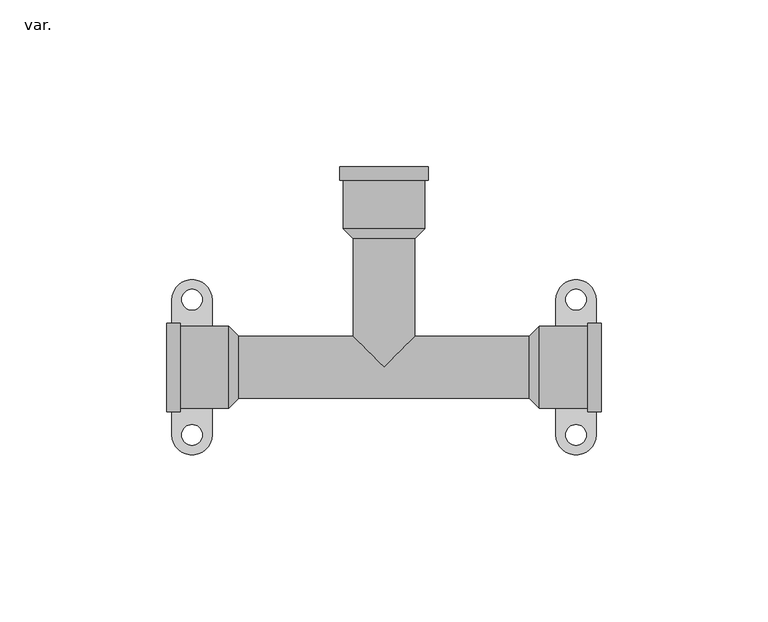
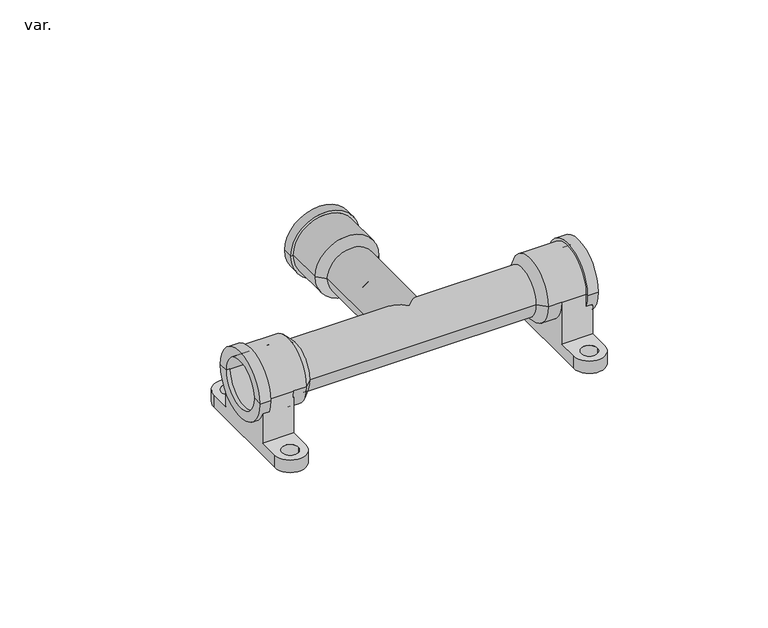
"""IFC4 building model written with IfcOpenShell, lengths in millimetres: pipe fitting geometry, AmancoWavin_ConexõesdeTubos_PEXTêMisturadorcomFixação : var.."""

from ifc_helpers import new_model, si_unit, frame, origin, place, context, project, spatial, polyline, circle_curve, ellipse_curve, source, transform, mapped, element, save
from ifc_brep_helpers import plane_surface, cylinder_surface, revolved_surface, advanced_brep


def var_aad8315b(model_context):
    return source(origin(), model_context, "Body", "AdvancedBrep", [
        advanced_brep(
        [(-51.0, 0.0, 0.0), (-51.0, 9.5, 0.0), (-51.0, -9.5, 0.0), (51.0, -9.5, 0.0), (51.0, 9.5, 0.0), (51.0, 0.0, 0.0), (51.5, -9.5, 0.0), (51.5, 9.5, 0.0), (65.0, -9.5, 0.0), (65.0, 9.5, 0.0), (63.5, 9.5, 0.0), (63.5, -9.5, 0.0), (65.0, -13.25, 0.0), (65.0, 13.25, 0.0), (61.0, -13.25, 0.0), (61.0, -12.25, -5.0497525), (63.5, -12.25, -5.0497525), (63.5, 12.25, -5.0497525), (61.0, 12.25, -5.0497525), (61.0, 13.25, 0.0), (61.0, 12.25, 0.0), (61.0, -12.25, 0.0), (46.5, -12.25, 0.0), (46.5, 12.25, 0.0), (51.5, 12.25, 0.0), (51.5, -12.25, 0.0), (43.5, -9.25, 0.0), (43.5, 9.25, 0.0), (-43.5, -9.25, 0.0), (-43.5, 9.25, 0.0), (-9.25, 9.25, 0.0), (0.0, 0.0, -9.25), (9.25, 9.25, 0.0), (0.0, 0.0, 9.25), (-46.5, -12.25, 0.0), (-46.5, 12.25, 0.0), (-51.5, -12.25, 0.0), (-51.5, 12.25, 0.0), (-61.0, 12.25, 0.0), (-61.0, -12.25, 0.0), (-61.0, 13.25, 0.0), (-61.0, 12.25, -5.0497525), (-61.0, -13.25, 0.0), (-61.0, -12.25, -5.0497525), (-65.0, -13.25, 0.0), (-65.0, 13.25, 0.0), (-63.5, 12.25, -5.0497525), (-63.5, -12.25, -5.0497525), (-65.0, -9.5, 0.0), (-65.0, 9.5, 0.0), (-51.5, 9.5, 0.0), (-51.5, -9.5, 0.0), (-63.5, -9.5, 0.0), (-63.5, 9.5, 0.0), (-9.25, 38.5, 0.0), (9.25, 38.5, 0.0), (-12.25, 41.5, 0.0), (12.25, 41.5, 0.0), (-12.25, 56.0, 0.0), (12.25, 56.0, 0.0), (-13.25, 56.0, 0.0), (13.25, 56.0, 0.0), (-13.25, 60.0, 0.0), (13.25, 60.0, 0.0), (-9.5, 60.0, 0.0), (9.5, 60.0, 0.0), (-9.5, 46.0, 0.0), (9.5, 46.0, 0.0), (0.0, 46.0, 0.0), (-63.5, -20.25, -17.0), (-51.5, -20.25, -17.0), (-51.5, -12.25, -17.0), (-63.5, -12.25, -17.0), (-60.6, -20.25, -17.0), (-54.4, -20.25, -17.0), (-51.5, 20.25, -17.0), (-63.5, 20.25, -17.0), (-63.5, 12.25, -17.0), (-51.5, 12.25, -17.0), (-60.6, 20.25, -17.0), (-54.4, 20.25, -17.0), (51.5, -20.25, -17.0), (63.5, -20.25, -17.0), (63.5, -12.25, -17.0), (51.5, -12.25, -17.0), (54.4, -20.25, -17.0), (60.6, -20.25, -17.0), (63.5, 20.25, -17.0), (51.5, 20.25, -17.0), (51.5, 12.25, -17.0), (63.5, 12.25, -17.0), (54.4, 20.25, -17.0), (60.6, 20.25, -17.0), (-63.5, -20.25, -22.0), (-63.5, 20.25, -22.0), (-51.5, 20.25, -22.0), (-51.5, -20.25, -22.0), (-60.6, 20.25, -22.0), (-54.4, 20.25, -22.0), (-60.6, -20.25, -22.0), (-54.4, -20.25, -22.0), (51.5, -20.25, -22.0), (51.5, 20.25, -22.0), (63.5, 20.25, -22.0), (63.5, -20.25, -22.0), (54.4, 20.25, -22.0), (60.6, 20.25, -22.0), (54.4, -20.25, -22.0), (60.6, -20.25, -22.0)],
        [
            (0, 1),
            (1, 2, circle_curve(frame((-51.0, 0.0, 0.0), z_axis=(-1.0, 0.0, 0.0), x_axis=(0.0, 1.0, 0.0)), 9.5)),
            (2, 0),
            (2, 1, circle_curve(frame((-51.0, 0.0, 0.0), z_axis=(-1.0, 0.0, 0.0), x_axis=(0.0, 1.0, 0.0)), 9.5)),
            (3, 4, circle_curve(frame((51.0, 0.0, 0.0), z_axis=(1.0, 0.0, 0.0), x_axis=(0.0, 1.0, 0.0)), 9.5)),
            (4, 5),
            (5, 3),
            (4, 3, circle_curve(frame((51.0, 0.0, 0.0), z_axis=(1.0, 0.0, 0.0), x_axis=(0.0, 1.0, 0.0)), 9.5)),
            (3, 6),
            (6, 7, circle_curve(frame((51.5, 0.0, 0.0), z_axis=(1.0, 0.0, 0.0), x_axis=(0.0, 1.0, 0.0)), 9.5)),
            (7, 4),
            (8, 9, circle_curve(frame((65.0, 0.0, 0.0), z_axis=(1.0, 0.0, 0.0), x_axis=(0.0, 1.0, 0.0)), 9.5)),
            (9, 10),
            (10, 11, circle_curve(frame((63.5, 0.0, 0.0), z_axis=(-1.0, 0.0, 0.0), x_axis=(0.0, 1.0, 0.0)), 9.5)),
            (11, 8),
            (7, 10),
            (9, 8, circle_curve(frame((65.0, 0.0, 0.0), z_axis=(1.0, 0.0, 0.0), x_axis=(0.0, 1.0, 0.0)), 9.5)),
            (11, 6),
            (8, 12),
            (12, 13, circle_curve(frame((65.0, 0.0, 0.0), z_axis=(1.0, 0.0, 0.0), x_axis=(0.0, 1.0, 0.0)), 13.25)),
            (13, 9),
            (13, 12, circle_curve(frame((65.0, 0.0, 0.0), z_axis=(1.0, 0.0, 0.0), x_axis=(0.0, 1.0, 0.0)), 13.25)),
            (12, 14),
            (14, 15, circle_curve(frame((61.0, 0.0, 0.0), z_axis=(1.0, 0.0, 0.0), x_axis=(0.0, 1.0, 0.0)), 13.25)),
            (15, 16),
            (16, 17, circle_curve(frame((63.5, 0.0, 0.0), z_axis=(1.0, 0.0, 0.0), x_axis=(0.0, 1.0, 0.0)), 13.25)),
            (17, 18),
            (18, 19, circle_curve(frame((61.0, 0.0, 0.0), z_axis=(1.0, 0.0, 0.0), x_axis=(0.0, 1.0, 0.0)), 13.25)),
            (19, 13),
            (19, 14, circle_curve(frame((61.0, 0.0, 0.0), z_axis=(1.0, 0.0, 0.0), x_axis=(0.0, 1.0, 0.0)), 13.25)),
            (20, 19),
            (18, 20),
            (14, 21),
            (21, 15),
            (20, 21, circle_curve(frame((61.0, 0.0, 0.0), z_axis=(1.0, 0.0, 0.0), x_axis=(0.0, 1.0, 0.0)), 12.25)),
            (22, 23, circle_curve(frame((46.5, 0.0, 0.0), z_axis=(1.0, 0.0, 0.0), x_axis=(0.0, 1.0, 0.0)), 12.25)),
            (23, 24),
            (24, 25, circle_curve(frame((51.5, 0.0, 0.0), z_axis=(-1.0, 0.0, 0.0), x_axis=(0.0, 1.0, 0.0)), 12.25)),
            (25, 22),
            (20, 24),
            (23, 22, circle_curve(frame((46.5, 0.0, 0.0), z_axis=(1.0, 0.0, 0.0), x_axis=(0.0, 1.0, 0.0)), 12.25)),
            (25, 21),
            (22, 26),
            (26, 27, circle_curve(frame((43.5, 0.0, 0.0), z_axis=(1.0, 0.0, 0.0), x_axis=(0.0, 1.0, 0.0)), 9.25)),
            (27, 23),
            (27, 26, circle_curve(frame((43.5, 0.0, 0.0), z_axis=(1.0, 0.0, 0.0), x_axis=(0.0, 1.0, 0.0)), 9.25)),
            (26, 28),
            (28, 29, circle_curve(frame((-43.5, 0.0, 0.0), z_axis=(1.0, 0.0, 0.0), x_axis=(0.0, 1.0, 0.0)), 9.25)),
            (29, 30),
            (30, 31, ellipse_curve(frame((0.0, 0.0, 0.0), z_axis=(-0.7071067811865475, -0.7071067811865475, 0.0), x_axis=(-0.7071067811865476, 0.7071067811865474, 0.0)), 13.0814755, 9.25)),
            (31, 32, ellipse_curve(frame((0.0, 0.0, 0.0), z_axis=(0.7071067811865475, -0.7071067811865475, 0.0), x_axis=(-0.7071067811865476, -0.7071067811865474, 0.0)), 13.0814755, 9.25)),
            (32, 27),
            (32, 33, ellipse_curve(frame((0.0, 0.0, 0.0), z_axis=(0.7071067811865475, -0.7071067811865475, 0.0), x_axis=(-0.7071067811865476, -0.7071067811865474, 0.0)), 13.0814755, 9.25)),
            (33, 30, ellipse_curve(frame((0.0, 0.0, 0.0), z_axis=(-0.7071067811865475, -0.7071067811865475, 0.0), x_axis=(-0.7071067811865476, 0.7071067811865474, 0.0)), 13.0814755, 9.25)),
            (29, 28, circle_curve(frame((-43.5, 0.0, 0.0), z_axis=(1.0, 0.0, 0.0), x_axis=(0.0, 1.0, 0.0)), 9.25)),
            (28, 34),
            (34, 35, circle_curve(frame((-46.5, 0.0, 0.0), z_axis=(1.0, 0.0, 0.0), x_axis=(0.0, 1.0, 0.0)), 12.25)),
            (35, 29),
            (35, 34, circle_curve(frame((-46.5, 0.0, 0.0), z_axis=(1.0, 0.0, 0.0), x_axis=(0.0, 1.0, 0.0)), 12.25)),
            (34, 36),
            (36, 37, circle_curve(frame((-51.5, 0.0, 0.0), z_axis=(1.0, 0.0, 0.0), x_axis=(0.0, 1.0, 0.0)), 12.25)),
            (37, 35),
            (37, 38),
            (38, 39, circle_curve(frame((-61.0, 0.0, 0.0), z_axis=(1.0, 0.0, 0.0), x_axis=(0.0, 1.0, 0.0)), 12.25)),
            (39, 36),
            (40, 38),
            (38, 41),
            (41, 40, circle_curve(frame((-61.0, 0.0, 0.0), z_axis=(1.0, 0.0, 0.0), x_axis=(0.0, 1.0, 0.0)), 13.25)),
            (39, 42),
            (42, 43, circle_curve(frame((-61.0, 0.0, 0.0), z_axis=(1.0, 0.0, 0.0), x_axis=(0.0, 1.0, 0.0)), 13.25)),
            (43, 39),
            (40, 42, circle_curve(frame((-61.0, 0.0, 0.0), z_axis=(1.0, 0.0, 0.0), x_axis=(0.0, 1.0, 0.0)), 13.25)),
            (44, 45, circle_curve(frame((-65.0, 0.0, 0.0), z_axis=(1.0, 0.0, 0.0), x_axis=(0.0, 1.0, 0.0)), 13.25)),
            (45, 40),
            (41, 46),
            (46, 47, circle_curve(frame((-63.5, 0.0, 0.0), z_axis=(-1.0, 0.0, 0.0), x_axis=(0.0, 1.0, 0.0)), 13.25)),
            (47, 43),
            (42, 44),
            (45, 44, circle_curve(frame((-65.0, 0.0, 0.0), z_axis=(1.0, 0.0, 0.0), x_axis=(0.0, 1.0, 0.0)), 13.25)),
            (44, 48),
            (48, 49, circle_curve(frame((-65.0, 0.0, 0.0), z_axis=(1.0, 0.0, 0.0), x_axis=(0.0, 1.0, 0.0)), 9.5)),
            (49, 45),
            (49, 48, circle_curve(frame((-65.0, 0.0, 0.0), z_axis=(1.0, 0.0, 0.0), x_axis=(0.0, 1.0, 0.0)), 9.5)),
            (1, 50),
            (50, 51, circle_curve(frame((-51.5, 0.0, 0.0), z_axis=(-1.0, 0.0, 0.0), x_axis=(0.0, 1.0, 0.0)), 9.5)),
            (51, 2),
            (48, 52),
            (52, 53, circle_curve(frame((-63.5, 0.0, 0.0), z_axis=(1.0, 0.0, 0.0), x_axis=(0.0, 1.0, 0.0)), 9.5)),
            (53, 49),
            (51, 52),
            (53, 50),
            (54, 55, circle_curve(frame((0.0, 38.5, 0.0), z_axis=(0.0, -1.0, 0.0), x_axis=(1.0, 0.0, 0.0)), 9.25)),
            (55, 32),
            (30, 54),
            (55, 54, circle_curve(frame((0.0, 38.5, 0.0), z_axis=(0.0, -1.0, 0.0), x_axis=(1.0, 0.0, 0.0)), 9.25)),
            (54, 56),
            (56, 57, circle_curve(frame((0.0, 41.5, 0.0), z_axis=(0.0, -1.0, 0.0), x_axis=(1.0, 0.0, 0.0)), 12.25)),
            (57, 55),
            (57, 56, circle_curve(frame((0.0, 41.5, 0.0), z_axis=(0.0, -1.0, 0.0), x_axis=(1.0, 0.0, 0.0)), 12.25)),
            (56, 58),
            (58, 59, circle_curve(frame((0.0, 56.0, 0.0), z_axis=(0.0, -1.0, 0.0), x_axis=(1.0, 0.0, 0.0)), 12.25)),
            (59, 57),
            (59, 58, circle_curve(frame((0.0, 56.0, 0.0), z_axis=(0.0, -1.0, 0.0), x_axis=(1.0, 0.0, 0.0)), 12.25)),
            (58, 60),
            (60, 61, circle_curve(frame((0.0, 56.0, 0.0), z_axis=(0.0, -1.0, 0.0), x_axis=(1.0, 0.0, 0.0)), 13.25)),
            (61, 59),
            (61, 60, circle_curve(frame((0.0, 56.0, 0.0), z_axis=(0.0, -1.0, 0.0), x_axis=(1.0, 0.0, 0.0)), 13.25)),
            (60, 62),
            (62, 63, circle_curve(frame((0.0, 60.0, 0.0), z_axis=(0.0, -1.0, 0.0), x_axis=(1.0, 0.0, 0.0)), 13.25)),
            (63, 61),
            (63, 62, circle_curve(frame((0.0, 60.0, 0.0), z_axis=(0.0, -1.0, 0.0), x_axis=(1.0, 0.0, 0.0)), 13.25)),
            (62, 64),
            (64, 65, circle_curve(frame((0.0, 60.0, 0.0), z_axis=(0.0, -1.0, 0.0), x_axis=(1.0, 0.0, 0.0)), 9.5)),
            (65, 63),
            (65, 64, circle_curve(frame((0.0, 60.0, 0.0), z_axis=(0.0, -1.0, 0.0), x_axis=(1.0, 0.0, 0.0)), 9.5)),
            (64, 66),
            (66, 67, circle_curve(frame((0.0, 46.0, 0.0), z_axis=(0.0, -1.0, 0.0), x_axis=(1.0, 0.0, 0.0)), 9.5)),
            (67, 65),
            (67, 66, circle_curve(frame((0.0, 46.0, 0.0), z_axis=(0.0, -1.0, 0.0), x_axis=(1.0, 0.0, 0.0)), 9.5)),
            (66, 68),
            (68, 67),
            (69, 70, circle_curve(frame((-57.5, -20.25, -17.0), z_axis=(0.0, 0.0, 1.0), x_axis=(1.0, 0.0, 0.0)), 6.0)),
            (70, 71),
            (71, 72),
            (72, 69),
            (73, 74, circle_curve(frame((-57.5, -20.25, -17.0), z_axis=(0.0, 0.0, -1.0), x_axis=(1.0, 0.0, 0.0)), 3.1)),
            (74, 73, circle_curve(frame((-57.5, -20.25, -17.0), z_axis=(0.0, 0.0, -1.0), x_axis=(1.0, 0.0, 0.0)), 3.1)),
            (75, 76, circle_curve(frame((-57.5, 20.25, -17.0), z_axis=(0.0, 0.0, 1.0), x_axis=(1.0, 0.0, 0.0)), 6.0)),
            (76, 77),
            (77, 78),
            (78, 75),
            (79, 80, circle_curve(frame((-57.5, 20.25, -17.0), z_axis=(0.0, 0.0, -1.0), x_axis=(1.0, 0.0, 0.0)), 3.1)),
            (80, 79, circle_curve(frame((-57.5, 20.25, -17.0), z_axis=(0.0, 0.0, -1.0), x_axis=(1.0, 0.0, 0.0)), 3.1)),
            (81, 82, circle_curve(frame((57.5, -20.25, -17.0), z_axis=(0.0, 0.0, 1.0), x_axis=(1.0, 0.0, 0.0)), 6.0)),
            (82, 83),
            (83, 84),
            (84, 81),
            (85, 86, circle_curve(frame((57.5, -20.25, -17.0), z_axis=(0.0, 0.0, -1.0), x_axis=(1.0, 0.0, 0.0)), 3.1)),
            (86, 85, circle_curve(frame((57.5, -20.25, -17.0), z_axis=(0.0, 0.0, -1.0), x_axis=(1.0, 0.0, 0.0)), 3.1)),
            (87, 88, circle_curve(frame((57.5, 20.25, -17.0), z_axis=(0.0, 0.0, 1.0), x_axis=(1.0, 0.0, 0.0)), 6.0)),
            (88, 89),
            (89, 90),
            (90, 87),
            (91, 92, circle_curve(frame((57.5, 20.25, -17.0), z_axis=(0.0, 0.0, -1.0), x_axis=(1.0, 0.0, 0.0)), 3.1)),
            (92, 91, circle_curve(frame((57.5, 20.25, -17.0), z_axis=(0.0, 0.0, -1.0), x_axis=(1.0, 0.0, 0.0)), 3.1)),
            (93, 94),
            (94, 95, circle_curve(frame((-57.5, 20.25, -22.0), z_axis=(0.0, 0.0, -1.0), x_axis=(1.0, 0.0, 0.0)), 6.0)),
            (95, 96),
            (96, 93, circle_curve(frame((-57.5, -20.25, -22.0), z_axis=(0.0, 0.0, -1.0), x_axis=(1.0, 0.0, 0.0)), 6.0)),
            (97, 98, circle_curve(frame((-57.5, 20.25, -22.0), z_axis=(0.0, 0.0, 1.0), x_axis=(1.0, 0.0, 0.0)), 3.1)),
            (98, 97, circle_curve(frame((-57.5, 20.25, -22.0), z_axis=(0.0, 0.0, 1.0), x_axis=(1.0, 0.0, 0.0)), 3.1)),
            (99, 100, circle_curve(frame((-57.5, -20.25, -22.0), z_axis=(0.0, 0.0, 1.0), x_axis=(1.0, 0.0, 0.0)), 3.1)),
            (100, 99, circle_curve(frame((-57.5, -20.25, -22.0), z_axis=(0.0, 0.0, 1.0), x_axis=(1.0, 0.0, 0.0)), 3.1)),
            (101, 102),
            (102, 103, circle_curve(frame((57.5, 20.25, -22.0), z_axis=(0.0, 0.0, -1.0), x_axis=(1.0, 0.0, 0.0)), 6.0)),
            (103, 104),
            (104, 101, circle_curve(frame((57.5, -20.25, -22.0), z_axis=(0.0, 0.0, -1.0), x_axis=(1.0, 0.0, 0.0)), 6.0)),
            (105, 106, circle_curve(frame((57.5, 20.25, -22.0), z_axis=(0.0, 0.0, 1.0), x_axis=(1.0, 0.0, 0.0)), 3.1)),
            (106, 105, circle_curve(frame((57.5, 20.25, -22.0), z_axis=(0.0, 0.0, 1.0), x_axis=(1.0, 0.0, 0.0)), 3.1)),
            (107, 108, circle_curve(frame((57.5, -20.25, -22.0), z_axis=(0.0, 0.0, 1.0), x_axis=(1.0, 0.0, 0.0)), 3.1)),
            (108, 107, circle_curve(frame((57.5, -20.25, -22.0), z_axis=(0.0, 0.0, 1.0), x_axis=(1.0, 0.0, 0.0)), 3.1)),
            (69, 93),
            (96, 70),
            (75, 95),
            (94, 76),
            (81, 101),
            (104, 82),
            (87, 103),
            (102, 88),
            (79, 97),
            (98, 80),
            (73, 99),
            (100, 74),
            (91, 105),
            (106, 92),
            (85, 107),
            (108, 86),
            (37, 78),
            (77, 46),
            (72, 47),
            (71, 36),
            (89, 24),
            (17, 90),
            (84, 25),
            (83, 16),
        ],
        [
            plane_surface(frame((-51.0, 0.0, 0.0), z_axis=(-1.0, 0.0, 0.0), x_axis=(0.0, 1.0, 0.0))),
            plane_surface(frame((51.0, 0.0, 0.0), z_axis=(1.0, 0.0, 0.0), x_axis=(0.0, 1.0, 0.0))),
            revolved_surface(polyline([(50.99999999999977, 9.5, 0.0), (51.49999999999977, 9.5, 0.0)]), (-2001.7466803, 0.0, 0.0), (-1.0, 0.0, 0.0)),
            revolved_surface(polyline([(63.49999999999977, 9.5, 0.0), (64.99999999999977, 9.5, 0.0)]), (-2001.7466803, 0.0, 0.0), (-1.0, 0.0, 0.0)),
            revolved_surface(polyline([(50.99999999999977, 9.5, 0.0), (64.99999999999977, 9.5, 0.0)]), (-2001.7466803, 0.0, 0.0), (-1.0, 0.0, 0.0)),
            plane_surface(frame((65.0, 0.0, 0.0), z_axis=(1.0, 0.0, 0.0), x_axis=(0.0, 1.0, 0.0))),
            cylinder_surface(frame((-2001.7466803, 0.0, 0.0), z_axis=(-1.0, 0.0, 0.0), x_axis=(0.0, 1.0, 0.0)), 13.25),
            plane_surface(frame((61.0, 0.0, 0.0), z_axis=(-1.0, 0.0, 0.0), x_axis=(0.0, 1.0, 0.0))),
            cylinder_surface(frame((-2001.7466803, 0.0, 0.0), z_axis=(-1.0, 0.0, 0.0), x_axis=(0.0, 1.0, 0.0)), 12.25),
            revolved_surface(polyline([(46.5, 12.25, 0.0), (43.5, 9.25, 0.0)]), (-2001.7466803, 0.0, 0.0), (-1.0, 0.0, 0.0)),
            cylinder_surface(frame((-2001.7466803, 0.0, 0.0), z_axis=(-1.0, 0.0, 0.0), x_axis=(0.0, 1.0, 0.0)), 9.25),
            revolved_surface(polyline([(-43.5, 9.25, 0.0), (-46.5, 12.25, 0.0)]), (-2001.7466803, 0.0, 0.0), (-1.0, 0.0, 0.0)),
            plane_surface(frame((-61.0, 0.0, 0.0), z_axis=(1.0, 0.0, 0.0), x_axis=(0.0, 1.0, 0.0))),
            plane_surface(frame((-65.0, 0.0, 0.0), z_axis=(-1.0, 0.0, 0.0), x_axis=(0.0, 1.0, 0.0))),
            revolved_surface(polyline([(-51.5, 9.5, 0.0), (-51.0, 9.5, 0.0)]), (-2001.7466803, 0.0, 0.0), (-1.0, 0.0, 0.0)),
            revolved_surface(polyline([(-65.0, 9.5, 0.0), (-63.5, 9.5, 0.0)]), (-2001.7466803, 0.0, 0.0), (-1.0, 0.0, 0.0)),
            revolved_surface(polyline([(-65.0, 9.5, 0.0), (-51.0, 9.5, 0.0)]), (-2001.7466803, 0.0, 0.0), (-1.0, 0.0, 0.0)),
            cylinder_surface(frame((0.0, -2000.0, 0.0), z_axis=(0.0, 1.0, 0.0), x_axis=(1.0, 0.0, 0.0)), 9.25),
            revolved_surface(polyline([(9.25, 38.5, 0.0), (12.25, 41.5, 0.0)]), (0.0, -2000.0, 0.0), (0.0, 1.0, 0.0)),
            cylinder_surface(frame((0.0, -2000.0, 0.0), z_axis=(0.0, 1.0, 0.0), x_axis=(1.0, 0.0, 0.0)), 12.25),
            plane_surface(frame((0.0, 56.0, 0.0), z_axis=(0.0, -1.0, 0.0), x_axis=(1.0, 0.0, 0.0))),
            cylinder_surface(frame((0.0, -2000.0, 0.0), z_axis=(0.0, 1.0, 0.0), x_axis=(1.0, 0.0, 0.0)), 13.25),
            plane_surface(frame((0.0, 60.0, 0.0), z_axis=(0.0, 1.0, 0.0), x_axis=(1.0, 0.0, 0.0))),
            revolved_surface(polyline([(9.5, 60.0, 0.0), (9.5, 46.0, 0.0)]), (0.0, -2000.0, 0.0), (0.0, 1.0, 0.0)),
            plane_surface(frame((0.0, 46.0, 0.0), z_axis=(0.0, 1.0, 0.0), x_axis=(1.0, 0.0, 0.0))),
            plane_surface(frame((-51.5, -20.25, -17.0), z_axis=(0.0, 0.0, 1.0), x_axis=(0.0, 1.0, 0.0))),
            plane_surface(frame((-51.5, -20.25, -22.0), z_axis=(0.0, 0.0, -1.0), x_axis=(0.0, -1.0, 0.0))),
            cylinder_surface(frame((-57.5, -20.25, -22.0), z_axis=(0.0, 0.0, 1.0), x_axis=(1.0, 0.0, 0.0)), 6.0),
            cylinder_surface(frame((-57.5, 20.25, -22.0), z_axis=(0.0, 0.0, 1.0), x_axis=(1.0, 0.0, 0.0)), 6.0),
            cylinder_surface(frame((57.5, -20.25, 0.0), z_axis=(0.0, 0.0, 1.0), x_axis=(1.0, 0.0, 0.0)), 6.0),
            cylinder_surface(frame((57.5, 20.25, 0.0), z_axis=(0.0, 0.0, 1.0), x_axis=(1.0, 0.0, 0.0)), 6.0),
            revolved_surface(polyline([(-54.4, 20.25, -22.0), (-54.4, 20.25, -17.0)]), (-57.5, 20.25, 0.0), (0.0, 0.0, -1.0)),
            revolved_surface(polyline([(-54.4, -20.25, -22.0), (-54.4, -20.25, -17.0)]), (-57.5, -20.25, 0.0), (0.0, 0.0, -1.0)),
            revolved_surface(polyline([(60.6, 20.25, -22.0), (60.6, 20.25, -17.0)]), (57.5, 20.25, 0.0), (0.0, 0.0, -1.0)),
            revolved_surface(polyline([(60.6, -20.25, -22.0), (60.6, -20.25, -17.0)]), (57.5, -20.25, 0.0), (0.0, 0.0, -1.0)),
            plane_surface(frame((-51.5, 12.25, 0.0), z_axis=(0.0, 1.0, 0.0), x_axis=(0.0, 0.0, -1.0))),
            plane_surface(frame((-63.5, 12.25, 0.0), z_axis=(-1.0, 0.0, 0.0), x_axis=(0.0, 0.0, -1.0))),
            plane_surface(frame((-63.5, -12.25, 0.0), z_axis=(0.0, -1.0, 0.0), x_axis=(0.0, 0.0, -1.0))),
            plane_surface(frame((-51.5, -12.25, 0.0), z_axis=(1.0, 0.0, 0.0), x_axis=(0.0, 0.0, -1.0))),
            plane_surface(frame((63.5, 12.25, 0.0), z_axis=(0.0, 1.0, 0.0), x_axis=(0.0, 0.0, -1.0))),
            plane_surface(frame((51.5, 12.25, 0.0), z_axis=(-1.0, 0.0, 0.0), x_axis=(0.0, 0.0, -1.0))),
            plane_surface(frame((51.5, -12.25, 0.0), z_axis=(0.0, -1.0, 0.0), x_axis=(0.0, 0.0, -1.0))),
            plane_surface(frame((63.5, -12.25, 0.0), z_axis=(1.0, 0.0, 0.0), x_axis=(0.0, 0.0, -1.0))),
            revolved_surface(polyline([(-63.5, 9.5, 0.0), (-51.5, 9.5, 0.0)]), (-2001.7466803, 0.0, 0.0), (-1.0, 0.0, 0.0)),
            revolved_surface(polyline([(51.49999999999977, 9.5, 0.0), (63.49999999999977, 9.5, 0.0)]), (-2001.7466803, 0.0, 0.0), (-1.0, 0.0, 0.0)),
        ],
        [
            (0, [[1, 2, 3]]),
            (0, [[-1, -3, 4]]),
            (1, [[5, 6, 7]]),
            (1, [[-6, 8, -7]]),
            (2, [[-5, 9, 10, 11]]),
            (3, [[12, 13, 14, 15]]),
            (4, [[-8, -11, 16, -13, 17, -15, 18, -9]]),
            (5, [[-12, 19, 20, 21]]),
            (5, [[-17, -21, 22, -19]]),
            (6, [[-20, 23, 24, 25, 26, 27, 28, 29]]),
            (6, [[-22, -29, 30, -23]]),
            (7, [[31, -28, 32]]),
            (7, [[33, 34, -24]]),
            (7, [[-30, -31, 35, -33]]),
            (8, [[36, 37, 38, 39]]),
            (8, [[-35, 40, -37, 41, -39, 42]]),
            (9, [[-36, 43, 44, 45]]),
            (9, [[-41, -45, 46, -43]]),
            (10, [[-44, 47, 48, 49, 50, 51, 52]]),
            (10, [[-46, -52, 53, 54, -49, 55, -47]]),
            (11, [[-48, 56, 57, 58]]),
            (11, [[-55, -58, 59, -56]]),
            (8, [[-57, 60, 61, 62]]),
            (8, [[-59, -62, 63, 64, 65, -60]]),
            (12, [[66, 67, 68]]),
            (12, [[69, 70, 71]]),
            (12, [[-64, -66, 72, -69]]),
            (6, [[73, 74, -68, 75, 76, 77, -70, 78]]),
            (6, [[-72, -74, 79, -78]]),
            (13, [[-73, 80, 81, 82]]),
            (13, [[-79, -82, 83, -80]]),
            (14, [[-2, 84, 85, 86]]),
            (15, [[-81, 87, 88, 89]]),
            (16, [[-4, -86, 90, -87, -83, -89, 91, -84]]),
            (17, [[92, 93, -51, -50, 94]]),
            (17, [[95, -94, -54, -53, -93]]),
            (18, [[-92, 96, 97, 98]]),
            (18, [[-95, -98, 99, -96]]),
            (19, [[-97, 100, 101, 102]]),
            (19, [[-99, -102, 103, -100]]),
            (20, [[-101, 104, 105, 106]]),
            (20, [[-103, -106, 107, -104]]),
            (21, [[-105, 108, 109, 110]]),
            (21, [[-107, -110, 111, -108]]),
            (22, [[-109, 112, 113, 114]]),
            (22, [[-111, -114, 115, -112]]),
            (23, [[-113, 116, 117, 118]]),
            (23, [[-115, -118, 119, -116]]),
            (24, [[-117, 120, 121]]),
            (24, [[-119, -121, -120]]),
            (25, [[122, 123, 124, 125], [126, 127]]),
            (25, [[128, 129, 130, 131], [132, 133]]),
            (25, [[134, 135, 136, 137], [138, 139]]),
            (25, [[140, 141, 142, 143], [144, 145]]),
            (26, [[146, 147, 148, 149], [150, 151], [152, 153]]),
            (26, [[154, 155, 156, 157], [158, 159], [160, 161]]),
            (27, [[-122, 162, -149, 163]]),
            (28, [[-128, 164, -147, 165]]),
            (29, [[-134, 166, -157, 167]]),
            (30, [[-140, 168, -155, 169]]),
            (31, [[-132, 170, -151, 171]]),
            (31, [[-133, -171, -150, -170]]),
            (32, [[-126, 172, -153, 173]]),
            (32, [[-127, -173, -152, -172]]),
            (33, [[-144, 174, -159, 175]]),
            (33, [[-145, -175, -158, -174]]),
            (34, [[-138, 176, -161, 177]]),
            (34, [[-139, -177, -160, -176]]),
            (35, [[178, -130, 179, -75, -67, -63]]),
            (36, [[-179, -129, -165, -146, -162, -125, 180, -76]]),
            (37, [[181, -65, -71, -77, -180, -124]]),
            (38, [[-178, -61, -181, -123, -163, -148, -164, -131]]),
            (39, [[182, -40, -32, -27, 183, -142]]),
            (40, [[-182, -141, -169, -154, -166, -137, 184, -38]]),
            (41, [[-184, -136, 185, -25, -34, -42]]),
            (42, [[-183, -26, -185, -135, -167, -156, -168, -143]]),
            (43, [[-88, -90, -85, -91]]),
            (44, [[-10, -18, -14, -16]]),
        ],
    ),
    ])


if __name__ == "__main__":
    model = new_model("IFC4")
    model_context = context("Model", 3, world=origin())
    ifc_project = project(units=[si_unit("LENGTHUNIT", "METRE", prefix="MILLI")], contexts=[model_context])
    site = spatial("IfcSite", under=ifc_project)
    building = spatial("IfcBuilding", under=site)
    placement = place(None, origin())
    var_shape = var_aad8315b(model_context)
    element("IfcPipeFitting", 1, ObjectType="AmancoWavin_ConexõesdeTubos_PEXTêMisturadorcomFixação : var.", at=placement, inside=building, context=model_context, shape_type="MappedRepresentation", body=[
        mapped(var_shape, transform((0.0, 0.0, 0.0), x_axis=(1.0, 0.0, 0.0), y_axis=(0.0, 1.0, 0.0), z_axis=(0.0, 0.0, 1.0))),
    ])
    save(model, "model.ifc")
